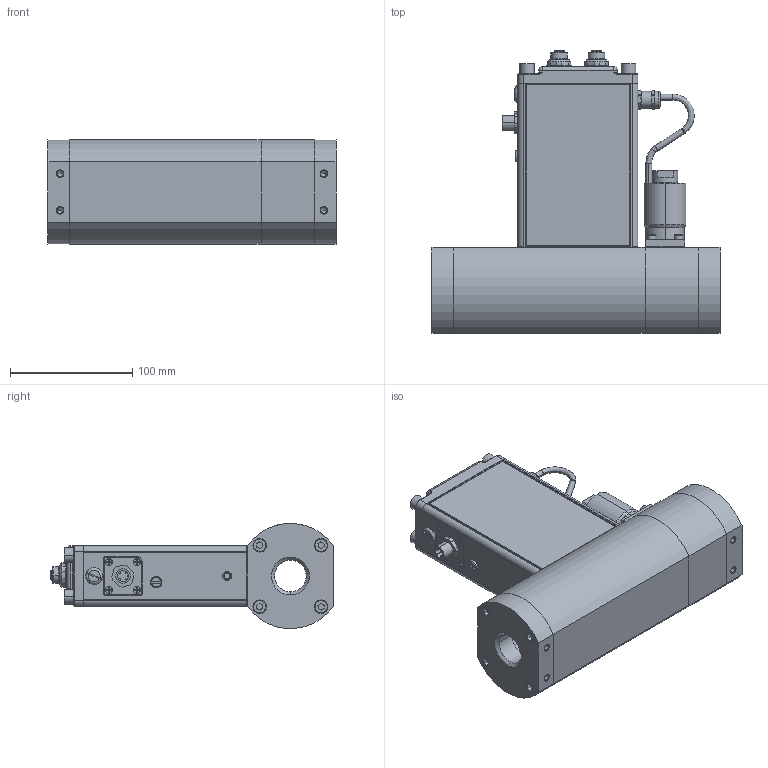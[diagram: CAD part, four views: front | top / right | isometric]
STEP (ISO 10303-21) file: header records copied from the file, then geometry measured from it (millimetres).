
FILE_DESCRIPTION (( 'STEP AP203' ), '1' );
FILE_NAME ('SLAMF53-7-2B-3-A-REVB.STEP', '2024-01-10T19:37:47', ( '' ), ( '' ), 'SwSTEP 2.0', 'SolidWorks 2020', '' );
FILE_SCHEMA (( 'CONFIG_CONTROL_DESIGN' ));
Length unit declared in the file: inch
Products named in the file (1): SLAMF53-7-2B-3-A-REVB
Bounding box: 235.4 x 231.16 x 85.69 mm (x, y, z)
Volume: 656613.9 mm3; surface area: 310660.7 mm2
Topology: 47 solids, 49 shells, 1495 faces, 3588 edges, 2297 vertices
Faces by surface type: cylinder 596, plane 588, cone 232, bspline 79
Entity records: 46713 total; most frequent: CARTESIAN_POINT 11127, DIRECTION 7682, ORIENTED_EDGE 7124, EDGE_CURVE 3562, AXIS2_PLACEMENT_3D 2944, VERTEX_POINT 2297, VECTOR 1794, LINE 1794
